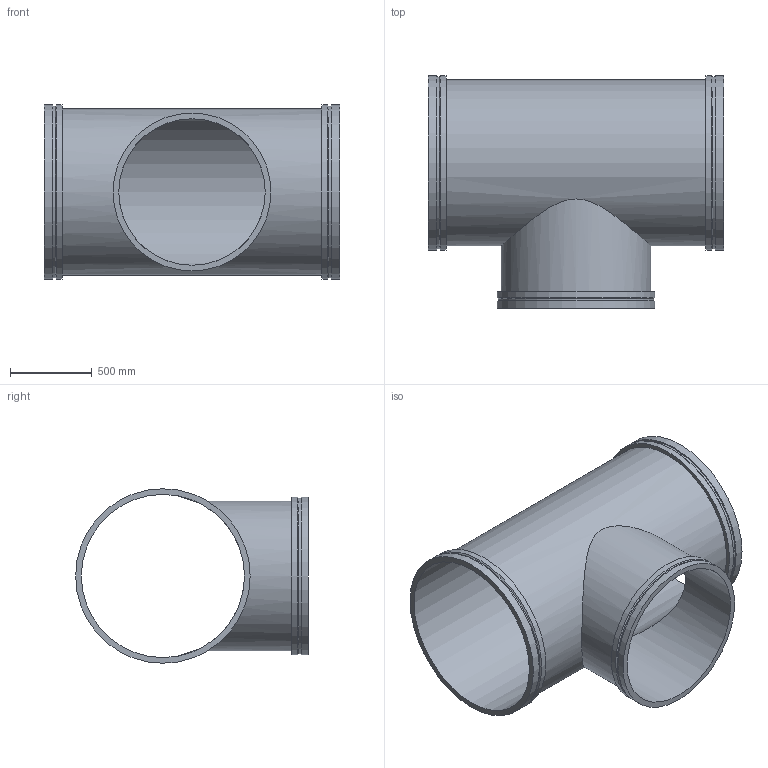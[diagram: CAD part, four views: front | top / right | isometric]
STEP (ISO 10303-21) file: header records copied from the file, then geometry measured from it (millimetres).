
FILE_DESCRIPTION(/* description */ ('VIC REDUCING TEE No W025 VR','CAx-IF Rec.Pracs.---Representation and Presentation of Product Manufacturing Information (PMI)---4.0---2014-10-13'),/* implementation_level */ '2;1');
FILE_NAME(/* name */ 'C:\Users\kkamble\AppData\Roaming\Autodesk\ApplicationPlugins\Back Up\Victaulic_Vic-Ring_Tee Reducing_No W25 VR (AGR)\Victaulic_Vic-Ring_Tee Reducing_No W25 VR (AGR)_40.0x36.0 (1000x900).stp',/* time_stamp */ '2020-09-10T11:55:55+05:00',/* author */ ('mchristi'),/* organization */ ('Victaulic'),/* preprocessor_version */ 'ST-DEVELOPER v17.2',/* originating_system */ 'Autodesk Inventor 2019',/* authorisation */ '');
FILE_SCHEMA (('AP242_MANAGED_MODEL_BASED_3D_ENGINEERING_MIM_LF { 1 0 10303 442 1 1 4 }'));
Length unit declared in the file: inch
Products named in the file (1): W25 VR-40.0x36.0
Bounding box: 1803.4 x 1422.4 x 1066.8 mm (x, y, z)
Volume: 85416580 mm3; surface area: 13557907 mm2
Topology: 1 solids, 1 shells, 25 faces, 68 edges, 52 vertices
Faces by surface type: cylinder 13, plane 9, cone 3
Full cylindrical faces by diameter (mm): 895.35 x1, 914.4 x1, 950.722 x1, 965.2 x2, 996.95 x1, 1016 x1, 1050.925 x2, 1066.8 x4
Entity records: 1267 total; most frequent: CARTESIAN_POINT 423, DIRECTION 190, ORIENTED_EDGE 136, AXIS2_PLACEMENT_3D 87, EDGE_CURVE 68, VERTEX_POINT 52, CIRCLE 48, EDGE_LOOP 36
